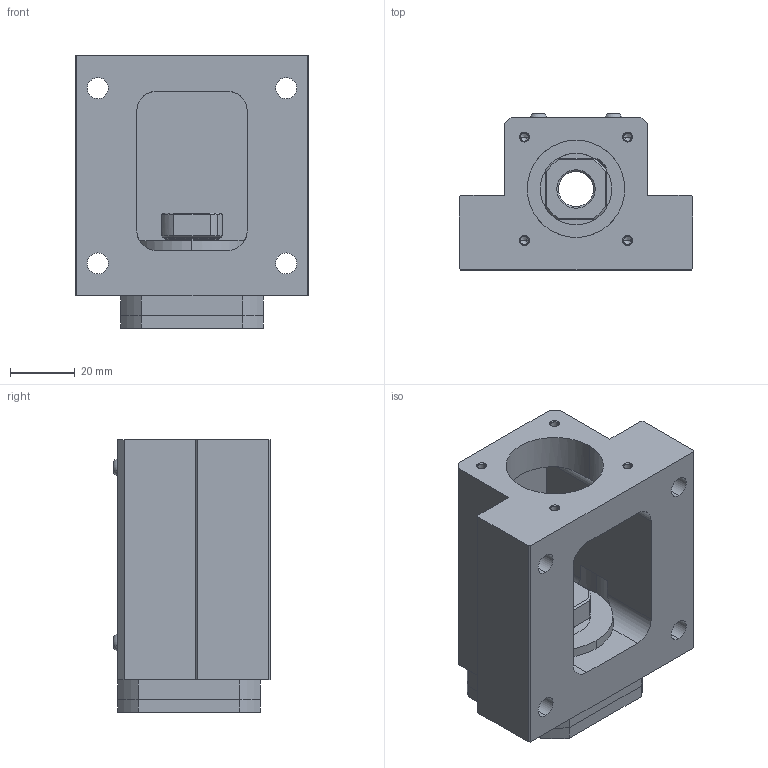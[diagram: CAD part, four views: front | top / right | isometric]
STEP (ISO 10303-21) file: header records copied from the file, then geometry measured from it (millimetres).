
FILE_DESCRIPTION (( 'STEP AP214' ), '1' );
FILE_NAME ('C-SBU-12-38.3.STEP', '2023-04-10T04:59:29', ( '' ), ( '' ), 'SwSTEP 2.0', 'SolidWorks 2021', '' );
FILE_SCHEMA (( 'AUTOMOTIVE_DESIGN' ));
Length unit declared in the file: millimetre
Products named in the file (6): socket head cap screw_ks_KS 1003 - M4 x 12 x 12-N; SBU-10,12 ACRYLE; FK12B; C-SBU-12-38.3; M3-6; SJU-12-M38 HOUSING
Assembly tree (11 placements, depth 2):
  C-SBU-12-38.3
    SJU-12-M38 HOUSING
    FK12B
    socket head cap screw_ks_KS 1003 - M4 x 12 x 12-N  x4
    SBU-10,12 ACRYLE
    M3-6  x4
Bounding box: 72 x 48.15 x 84 mm (x, y, z)
Volume: 130584.4 mm3; surface area: 52331.7 mm2
Topology: 12 solids, 16 shells, 687 faces, 1608 edges, 948 vertices
Faces by surface type: plane 267, cylinder 203, cone 153, torus 64
Entity records: 15972 total; most frequent: CARTESIAN_POINT 3149, DIRECTION 2788, ORIENTED_EDGE 2396, EDGE_CURVE 1198, AXIS2_PLACEMENT_3D 1098, VERTEX_POINT 736, EDGE_LOOP 618, LINE 592
